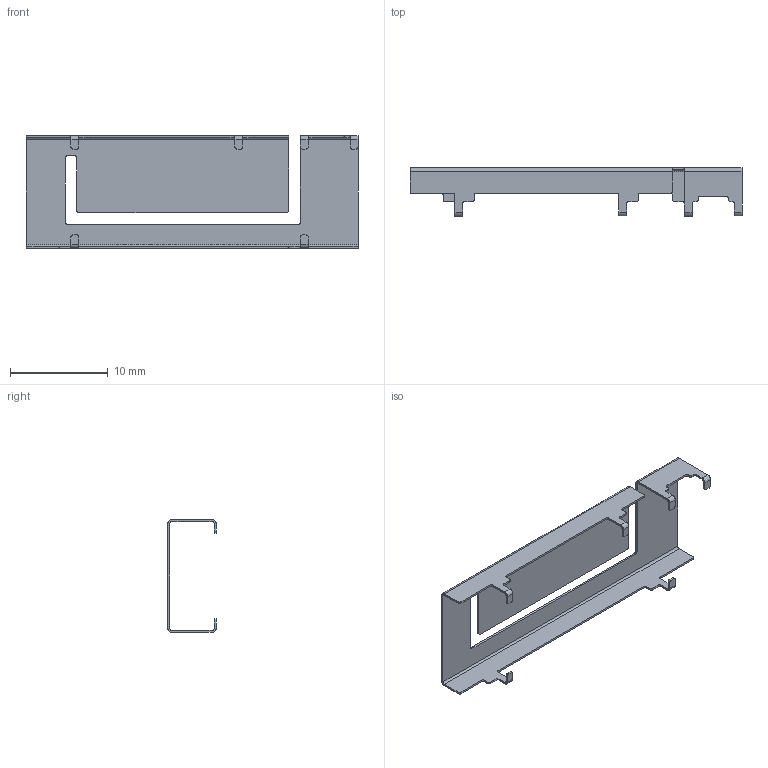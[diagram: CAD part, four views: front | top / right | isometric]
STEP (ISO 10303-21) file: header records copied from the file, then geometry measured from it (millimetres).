
FILE_DESCRIPTION (( 'STEP AP203' ), '1' );
FILE_NAME ('471-00-160603.STEP', '2016-06-23T11:36:13', ( '' ), ( '' ), 'SwSTEP 2.0', 'SolidWorks 2010', '' );
FILE_SCHEMA (( 'CONFIG_CONTROL_DESIGN' ));
Length unit declared in the file: millimetre
Products named in the file (1): 471-00-160603
Bounding box: 34 x 4.93 x 11.53 mm (x, y, z)
Volume: 104.1 mm3; surface area: 1085.6 mm2
Topology: 1 solids, 1 shells, 417 faces, 1083 edges, 698 vertices
Faces by surface type: plane 260, bspline 95, cylinder 62
Entity records: 20518 total; most frequent: CARTESIAN_POINT 10800, ORIENTED_EDGE 2166, DIRECTION 1663, EDGE_CURVE 1083, LINE 769, VECTOR 769, VERTEX_POINT 698, EDGE_LOOP 447
